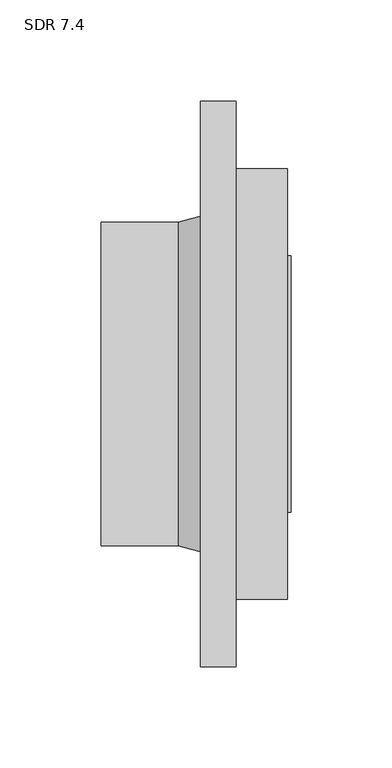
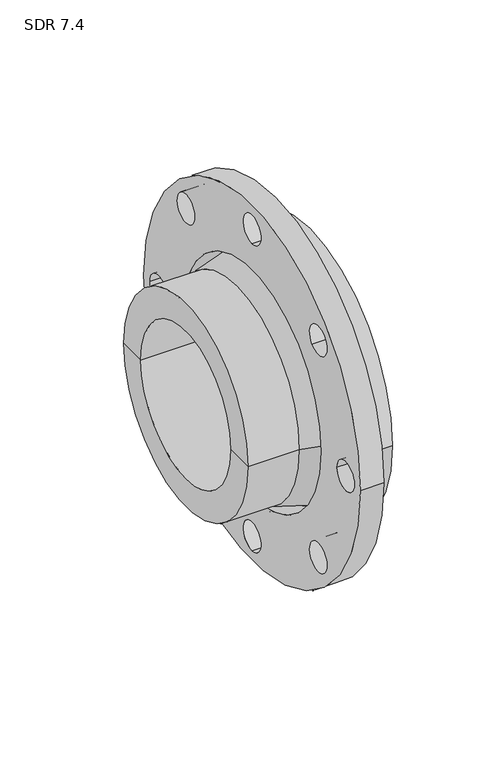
"""IFC4 building model written with IfcOpenShell, lengths in millimetres: valve geometry, Aquatherm - Flange Adapter Butt-Weld : SDR 7.4."""

from ifc_helpers import new_model, si_unit, point, frame, frame_2d, origin, origin_2d, place, context, project, spatial, polyline, circle_curve, trimmed, segment, composite_curve, outline, extrude, source, transform, mapped, element, save
from ifc_brep_helpers import plane_surface, cylinder_surface, revolved_surface, advanced_brep


def sdr_7_4_e5ba73a4(model_context):
    return source(origin(), model_context, "Body", "SolidModel", [
        extrude(outline(composite_curve([segment(trimmed(circle_curve(origin_2d(), 139.7), [point((139.7, 0.0))], [point((-139.7, 0.0))], False, "CARTESIAN"), True, "CONTINUOUS"), segment(trimmed(circle_curve(origin_2d(), 139.7), [point((-139.7, 0.0))], [point((139.7, 0.0))], False, "CARTESIAN"), True, "CONTINUOUS")], self_intersect=False), holes=[composite_curve([segment(trimmed(circle_curve(origin_2d(), 88.9), [point((88.9, 0.0))], [point((-88.9, 0.0))], True, "CARTESIAN"), True, "CONTINUOUS"), segment(trimmed(circle_curve(origin_2d(), 88.9), [point((-88.9, 0.0))], [point((88.9, 0.0))], True, "CARTESIAN"), True, "CONTINUOUS")], self_intersect=False), composite_curve([segment(trimmed(circle_curve(frame_2d((-120.65, 0.0)), 11.176), [point((-109.474, 0.0))], [point((-131.826, 0.0))], True, "CARTESIAN"), True, "CONTINUOUS"), segment(trimmed(circle_curve(frame_2d((-120.65, 0.0)), 11.176), [point((-131.826, 0.0))], [point((-109.474, 0.0))], True, "CARTESIAN"), True, "CONTINUOUS")], self_intersect=False), composite_curve([segment(trimmed(circle_curve(frame_2d((-85.3124332, -85.3124332)), 11.176), [point((-77.4098078, -77.4098078))], [point((-93.2150585, -93.2150585))], True, "CARTESIAN"), True, "CONTINUOUS"), segment(trimmed(circle_curve(frame_2d((-85.3124332, -85.3124332)), 11.176), [point((-93.2150585, -93.2150585))], [point((-77.4098078, -77.4098078))], True, "CARTESIAN"), True, "CONTINUOUS")], self_intersect=False), composite_curve([segment(trimmed(circle_curve(frame_2d((-85.3124332, 85.3124332)), 11.176), [point((-77.4098078, 77.4098078))], [point((-93.2150585, 93.2150585))], True, "CARTESIAN"), True, "CONTINUOUS"), segment(trimmed(circle_curve(frame_2d((-85.3124332, 85.3124332)), 11.176), [point((-93.2150585, 93.2150585))], [point((-77.4098078, 77.4098078))], True, "CARTESIAN"), True, "CONTINUOUS")], self_intersect=False), composite_curve([segment(trimmed(circle_curve(frame_2d((0.0, 120.65)), 11.176), [point((0.0, 109.474))], [point((0.0, 131.826))], True, "CARTESIAN"), True, "CONTINUOUS"), segment(trimmed(circle_curve(frame_2d((0.0, 120.65)), 11.176), [point((0.0, 131.826))], [point((0.0, 109.474))], True, "CARTESIAN"), True, "CONTINUOUS")], self_intersect=False), composite_curve([segment(trimmed(circle_curve(frame_2d((85.3124332, 85.3124332)), 11.176), [point((77.4098078, 77.4098078))], [point((93.2150585, 93.2150585))], True, "CARTESIAN"), True, "CONTINUOUS"), segment(trimmed(circle_curve(frame_2d((85.3124332, 85.3124332)), 11.176), [point((93.2150585, 93.2150585))], [point((77.4098078, 77.4098078))], True, "CARTESIAN"), True, "CONTINUOUS")], self_intersect=False), composite_curve([segment(trimmed(circle_curve(frame_2d((120.65, 0.0)), 11.176), [point((109.474, 0.0))], [point((131.826, 0.0))], True, "CARTESIAN"), True, "CONTINUOUS"), segment(trimmed(circle_curve(frame_2d((120.65, 0.0)), 11.176), [point((131.826, 0.0))], [point((109.474, 0.0))], True, "CARTESIAN"), True, "CONTINUOUS")], self_intersect=False), composite_curve([segment(trimmed(circle_curve(frame_2d((85.3124332, -85.3124332)), 11.176), [point((77.4098078, -77.4098078))], [point((93.2150585, -93.2150585))], True, "CARTESIAN"), True, "CONTINUOUS"), segment(trimmed(circle_curve(frame_2d((85.3124332, -85.3124332)), 11.176), [point((93.2150585, -93.2150585))], [point((77.4098078, -77.4098078))], True, "CARTESIAN"), True, "CONTINUOUS")], self_intersect=False), composite_curve([segment(trimmed(circle_curve(frame_2d((0.0, -120.65)), 11.176), [point((0.0, -109.474))], [point((0.0, -131.826))], True, "CARTESIAN"), True, "CONTINUOUS"), segment(trimmed(circle_curve(frame_2d((0.0, -120.65)), 11.176), [point((0.0, -131.826))], [point((0.0, -109.474))], True, "CARTESIAN"), True, "CONTINUOUS")], self_intersect=False)]), frame((-17.526, 0.0, 0.0), z_axis=(1.0, 0.0, 0.0), x_axis=(0.0, 1.0, 0.0)), (0.0, 0.0, 1.0), 17.526),
        advanced_brep(
        [(25.4, -106.426, 0.0), (0.0, -106.426, 0.0), (0.0, 106.426, 0.0), (25.4, 106.426, 0.0), (26.9875, -58.166, 0.0), (26.9875, -63.246, 0.0), (26.9875, 63.246, 0.0), (26.9875, 58.166, 0.0), (-66.802, -58.166, 0.0), (-66.802, 58.166, 0.0), (-66.802, -80.01, 0.0), (-66.802, 80.01, 0.0), (-28.702, -80.01, 0.0), (-28.702, 80.01, 0.0), (0.0, -87.503, 0.0), (0.0, 87.503, 0.0), (25.4, -63.246, 0.0), (25.4, 63.246, 0.0)],
        [
            (0, 1),
            (1, 2, circle_curve(frame((0.0, 0.0, 0.0), z_axis=(1.0, 0.0, 0.0), x_axis=(0.0, 1.0, 0.0)), 106.426)),
            (2, 3),
            (3, 0, circle_curve(frame((25.4, 0.0, 0.0), z_axis=(-1.0, 0.0, 0.0), x_axis=(0.0, 1.0, 0.0)), 106.426)),
            (2, 1, circle_curve(frame((0.0, 0.0, 0.0), z_axis=(1.0, 0.0, 0.0), x_axis=(0.0, 1.0, 0.0)), 106.426)),
            (0, 3, circle_curve(frame((25.4, 0.0, 0.0), z_axis=(-1.0, 0.0, 0.0), x_axis=(0.0, 1.0, 0.0)), 106.426)),
            (4, 5),
            (5, 6, circle_curve(frame((26.9875, 0.0, 0.0), z_axis=(1.0, 0.0, 0.0), x_axis=(0.0, 1.0, 0.0)), 63.246)),
            (6, 7),
            (7, 4, circle_curve(frame((26.9875, 0.0, 0.0), z_axis=(-1.0, 0.0, 0.0), x_axis=(0.0, 1.0, 0.0)), 58.166)),
            (6, 5, circle_curve(frame((26.9875, 0.0, 0.0), z_axis=(1.0, 0.0, 0.0), x_axis=(0.0, 1.0, 0.0)), 63.246)),
            (4, 7, circle_curve(frame((26.9875, 0.0, 0.0), z_axis=(-1.0, 0.0, 0.0), x_axis=(0.0, 1.0, 0.0)), 58.166)),
            (8, 4),
            (7, 9),
            (9, 8, circle_curve(frame((-66.802, 0.0, 0.0), z_axis=(-1.0, 0.0, 0.0), x_axis=(0.0, 1.0, 0.0)), 58.166)),
            (8, 9, circle_curve(frame((-66.802, 0.0, 0.0), z_axis=(-1.0, 0.0, 0.0), x_axis=(0.0, 1.0, 0.0)), 58.166)),
            (10, 8),
            (9, 11),
            (11, 10, circle_curve(frame((-66.802, 0.0, 0.0), z_axis=(-1.0, 0.0, 0.0), x_axis=(0.0, 1.0, 0.0)), 80.01)),
            (10, 11, circle_curve(frame((-66.802, 0.0, 0.0), z_axis=(-1.0, 0.0, 0.0), x_axis=(0.0, 1.0, 0.0)), 80.01)),
            (12, 10),
            (11, 13),
            (13, 12, circle_curve(frame((-28.702, 0.0, 0.0), z_axis=(-1.0, 0.0, 0.0), x_axis=(0.0, 1.0, 0.0)), 80.01)),
            (12, 13, circle_curve(frame((-28.702, 0.0, 0.0), z_axis=(-1.0, 0.0, 0.0), x_axis=(0.0, 1.0, 0.0)), 80.01)),
            (1, 14),
            (14, 15, circle_curve(frame((0.0, 0.0, 0.0), z_axis=(1.0, 0.0, 0.0), x_axis=(0.0, 1.0, 0.0)), 87.503)),
            (15, 2),
            (15, 14, circle_curve(frame((0.0, 0.0, 0.0), z_axis=(1.0, 0.0, 0.0), x_axis=(0.0, 1.0, 0.0)), 87.503)),
            (16, 0),
            (3, 17),
            (17, 16, circle_curve(frame((25.4, 0.0, 0.0), z_axis=(-1.0, 0.0, 0.0), x_axis=(0.0, 1.0, 0.0)), 63.246)),
            (16, 17, circle_curve(frame((25.4, 0.0, 0.0), z_axis=(-1.0, 0.0, 0.0), x_axis=(0.0, 1.0, 0.0)), 63.246)),
            (5, 16),
            (17, 6),
            (14, 12),
            (13, 15),
        ],
        [
            cylinder_surface(frame((1466.0389321, 0.0, 0.0), z_axis=(1.0, 0.0, 0.0), x_axis=(0.0, 1.0, 0.0)), 106.426),
            plane_surface(frame((26.9875, 0.0, 0.0), z_axis=(1.0, 0.0, 0.0), x_axis=(0.0, 1.0, 0.0))),
            revolved_surface(polyline([(26.987499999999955, 58.166, 0.0), (-66.80199999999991, 58.166, 0.0)]), (1466.0389321, 0.0, 0.0), (1.0, 0.0, 0.0)),
            plane_surface(frame((-66.802, 0.0, 0.0), z_axis=(-1.0, 0.0, 0.0), x_axis=(0.0, 1.0, 0.0))),
            cylinder_surface(frame((1466.0389321, 0.0, 0.0), z_axis=(1.0, 0.0, 0.0), x_axis=(0.0, 1.0, 0.0)), 80.01),
            plane_surface(frame((0.0, 0.0, 0.0), z_axis=(-1.0, 0.0, 0.0), x_axis=(0.0, 1.0, 0.0))),
            plane_surface(frame((25.4, 0.0, 0.0), z_axis=(1.0, 0.0, 0.0), x_axis=(0.0, 1.0, 0.0))),
            cylinder_surface(frame((1466.0389321, 0.0, 0.0), z_axis=(1.0, 0.0, 0.0), x_axis=(0.0, 1.0, 0.0)), 63.246),
            revolved_surface(polyline([(-28.702, 80.01, 0.0), (0.0, 87.503, 0.0)]), (1466.0389321, 0.0, 0.0), (1.0, 0.0, 0.0)),
        ],
        [
            (0, [[1, 2, 3, 4]]),
            (0, [[-3, 5, -1, 6]]),
            (1, [[7, 8, 9, 10]]),
            (1, [[-9, 11, -7, 12]]),
            (2, [[13, -10, 14, 15]]),
            (2, [[-14, -12, -13, 16]]),
            (3, [[17, -15, 18, 19]]),
            (3, [[-18, -16, -17, 20]]),
            (4, [[21, -19, 22, 23]]),
            (4, [[-22, -20, -21, 24]]),
            (5, [[25, 26, 27, -2]]),
            (5, [[-27, 28, -25, -5]]),
            (6, [[29, -4, 30, 31]]),
            (6, [[-30, -6, -29, 32]]),
            (7, [[33, -31, 34, -8]]),
            (7, [[-34, -32, -33, -11]]),
            (8, [[35, -23, 36, -26]]),
            (8, [[-36, -24, -35, -28]]),
        ],
    ),
    ])


if __name__ == "__main__":
    model = new_model("IFC4")
    model_context = context("Model", 3, world=origin())
    ifc_project = project(units=[si_unit("LENGTHUNIT", "METRE", prefix="MILLI")], contexts=[model_context])
    site = spatial("IfcSite", under=ifc_project)
    building = spatial("IfcBuilding", under=site)
    placement = place(None, origin())
    sdr_7_4_shape = sdr_7_4_e5ba73a4(model_context)
    element("IfcValve", 1, ObjectType="Aquatherm - Flange Adapter Butt-Weld : SDR 7.4", at=placement, inside=building, context=model_context, shape_type="MappedRepresentation", body=[
        mapped(sdr_7_4_shape, transform((0.0, 0.0, 0.0), x_axis=(1.0, 0.0, 0.0), y_axis=(0.0, 1.0, 0.0), z_axis=(0.0, 0.0, 1.0))),
    ])
    save(model, "model.ifc")
